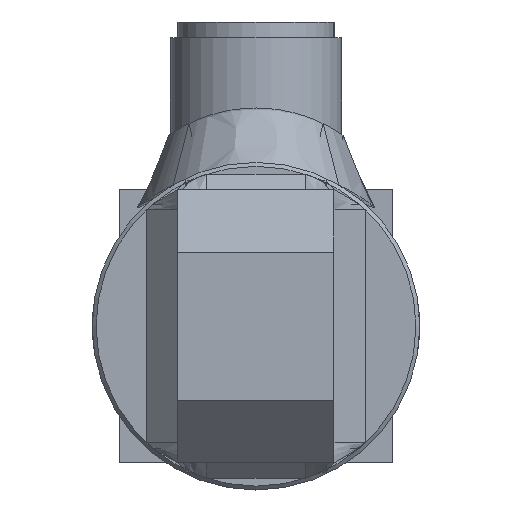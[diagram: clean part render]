
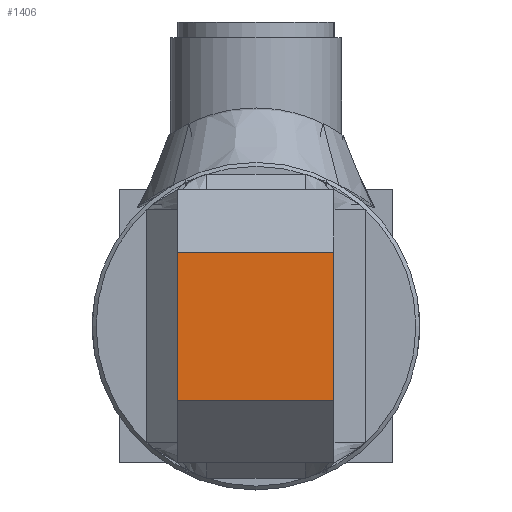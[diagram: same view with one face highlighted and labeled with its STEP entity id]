
A CAD part, left-side view. The second image highlights one B-rep face of the part: STEP entity #1406.
In plain terms, the highlighted planar face has unit normal (-1, 0, 0) as drawn and (1, 0, 0) by its records, which use the part's own axes.
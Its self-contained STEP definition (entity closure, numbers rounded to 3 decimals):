
#1406 = ADVANCED_FACE( '', ( #2541 ), #2542, .F. );
#2541 = FACE_OUTER_BOUND( '', #6381, .T. );
#2542 = PLANE( '', #6382 );
#6381 = EDGE_LOOP( '', ( #8122, #8123, #8124, #8125 ) );
#6382 = AXIS2_PLACEMENT_3D( '', #8126, #8127, #8128 );
#8122 = ORIENTED_EDGE( '', *, *, #8679, .T. );
#8123 = ORIENTED_EDGE( '', *, *, #8697, .T. );
#8124 = ORIENTED_EDGE( '', *, *, #8803, .T. );
#8125 = ORIENTED_EDGE( '', *, *, #8522, .T. );
#8126 = CARTESIAN_POINT( '', ( 42., -10., 17.5 ) );
#8127 = DIRECTION( '', ( -1., 0., 0. ) );
#8128 = DIRECTION( '', ( 0., -1., 0. ) );
#8522 = EDGE_CURVE( '', #9621, #9625, #9627, .T. );
#8679 = EDGE_CURVE( '', #9625, #9874, #9876, .T. );
#8697 = EDGE_CURVE( '', #9874, #9901, #9903, .T. );
#8803 = EDGE_CURVE( '', #9901, #9621, #10063, .T. );
#9621 = VERTEX_POINT( '', #10870 );
#9625 = VERTEX_POINT( '', #10876 );
#9627 = LINE( '', #10879, #10880 );
#9874 = VERTEX_POINT( '', #11333 );
#9876 = LINE( '', #11336, #11337 );
#9901 = VERTEX_POINT( '', #11375 );
#9903 = LINE( '', #11378, #11379 );
#10063 = LINE( '', #11938, #11939 );
#10870 = CARTESIAN_POINT( '', ( 42., -10., -9.5 ) );
#10876 = CARTESIAN_POINT( '', ( 42., 10., -9.5 ) );
#10879 = CARTESIAN_POINT( '', ( 42., -10., -9.5 ) );
#10880 = VECTOR( '', #13139, 1000. );
#11333 = CARTESIAN_POINT( '', ( 42., 10., 9.5 ) );
#11336 = CARTESIAN_POINT( '', ( 42., 10., -17.5 ) );
#11337 = VECTOR( '', #13319, 1000. );
#11375 = CARTESIAN_POINT( '', ( 42., -10., 9.5 ) );
#11378 = CARTESIAN_POINT( '', ( 42., -10., 9.5 ) );
#11379 = VECTOR( '', #13332, 1000. );
#11938 = CARTESIAN_POINT( '', ( 42., -10., 17.5 ) );
#11939 = VECTOR( '', #13428, 1000. );
#13139 = DIRECTION( '', ( 0., 1., 0. ) );
#13319 = DIRECTION( '', ( 0., 0., 1. ) );
#13332 = DIRECTION( '', ( 0., -1., 0. ) );
#13428 = DIRECTION( '', ( 0., 0., -1. ) );
